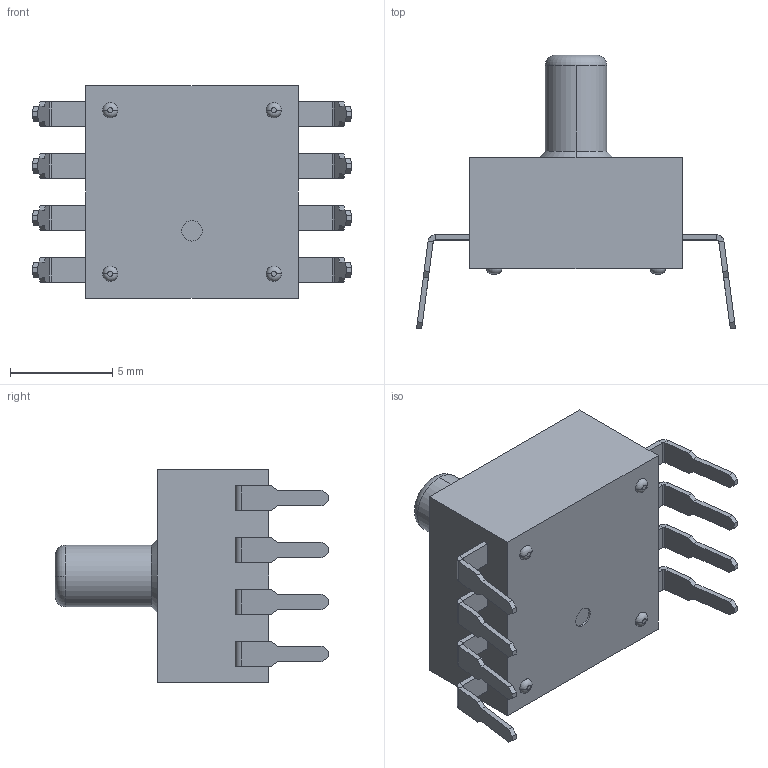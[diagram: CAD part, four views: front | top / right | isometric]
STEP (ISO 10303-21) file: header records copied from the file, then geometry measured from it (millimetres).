
FILE_DESCRIPTION (( 'STEP AP214' ), '1' );
FILE_NAME ('adp51b61.step', '2012-06-19T02:37:50', ( '' ), ( '(C)Panasonic Corporation 2012' ), '', '', '' );
FILE_SCHEMA (( 'AUTOMOTIVE_DESIGN' ));
Length unit declared in the file: millimetre
Products named in the file (1): adp51b61
Bounding box: 15.59 x 13.38 x 10.4 mm (x, y, z)
Volume: 633.7 mm3; surface area: 633.3 mm2
Topology: 9 solids, 9 shells, 193 faces, 436 edges, 268 vertices
Faces by surface type: plane 157, cylinder 22, torus 10, cone 4
Entity records: 5370 total; most frequent: DIRECTION 902, CARTESIAN_POINT 898, ORIENTED_EDGE 872, EDGE_CURVE 436, VECTOR 358, LINE 358, AXIS2_PLACEMENT_3D 272, VERTEX_POINT 268
